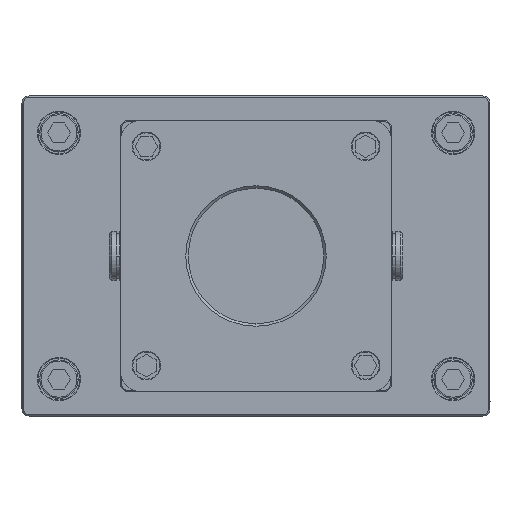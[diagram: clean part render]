
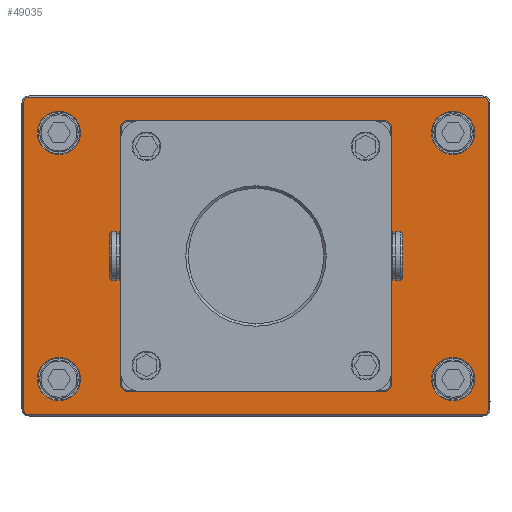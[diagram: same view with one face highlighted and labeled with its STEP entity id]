
A CAD part, front view. The second image highlights one B-rep face of the part: STEP entity #49035.
In plain terms, the highlighted planar face has unit normal (0, -1, 0) as drawn and (0, 1, 0) by its records, which use the part's own axes.
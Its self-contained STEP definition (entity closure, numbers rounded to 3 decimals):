
#47487=CARTESIAN_POINT('',(0.,9.,0.));
#47488=DIRECTION('',(0.,-1.,0.));
#47489=DIRECTION('',(1.,0.,0.));
#47490=AXIS2_PLACEMENT_3D('',#47487,#47488,#47489);
#47492=CARTESIAN_POINT('',(0.,9.,0.));
#47493=DIRECTION('',(0.,-1.,0.));
#47494=DIRECTION('',(-1.,0.,0.));
#47495=AXIS2_PLACEMENT_3D('',#47492,#47493,#47494);
#47497=CARTESIAN_POINT('',(-92.,9.,-62.));
#47498=DIRECTION('',(0.,1.,0.));
#47499=DIRECTION('',(0.,0.,-1.));
#47500=AXIS2_PLACEMENT_3D('',#47497,#47498,#47499);
#47502=DIRECTION('',(-1.,0.,0.));
#47503=VECTOR('',#47502,184.);
#47504=CARTESIAN_POINT('',(92.,9.,
-64.5));
#47505=LINE('',#47504,#47503);
#47506=CARTESIAN_POINT('',(92.,9.,-62.));
#47507=DIRECTION('',(0.,1.,0.));
#47508=DIRECTION('',(1.,0.,0.));
#47509=AXIS2_PLACEMENT_3D('',#47506,#47507,#47508);
#47511=DIRECTION('',(0.,0.,-1.));
#47512=VECTOR('',#47511,124.);
#47513=CARTESIAN_POINT('',(94.5,9.,62.));
#47514=LINE('',#47513,#47512);
#47515=CARTESIAN_POINT('',(92.,9.,62.));
#47516=DIRECTION('',(0.,1.,0.));
#47517=DIRECTION('',(0.,0.,1.));
#47518=AXIS2_PLACEMENT_3D('',#47515,#47516,#47517);
#47520=DIRECTION('',(1.,0.,0.));
#47521=VECTOR('',#47520,184.);
#47522=CARTESIAN_POINT('',(-92.,9.,
64.5));
#47523=LINE('',#47522,#47521);
#47524=CARTESIAN_POINT('',(-92.,9.,62.));
#47525=DIRECTION('',(0.,1.,0.));
#47526=DIRECTION('',(-1.,0.,0.));
#47527=AXIS2_PLACEMENT_3D('',#47524,#47525,#47526);
#47529=DIRECTION('',(0.,0.,1.));
#47530=VECTOR('',#47529,124.);
#47531=CARTESIAN_POINT('',(-94.5,9.,
-62.));
#47532=LINE('',#47531,#47530);
#47533=CARTESIAN_POINT('',(80.,9.,50.));
#47534=DIRECTION('',(0.,-1.,0.));
#47535=DIRECTION('',(1.,0.,0.));
#47536=AXIS2_PLACEMENT_3D('',#47533,#47534,#47535);
#47538=CARTESIAN_POINT('',(80.,9.,50.));
#47539=DIRECTION('',(0.,-1.,0.));
#47540=DIRECTION('',(-1.,0.,0.));
#47541=AXIS2_PLACEMENT_3D('',#47538,#47539,#47540);
#47543=CARTESIAN_POINT('',(-80.,9.,50.));
#47544=DIRECTION('',(0.,-1.,0.));
#47545=DIRECTION('',(1.,0.,0.));
#47546=AXIS2_PLACEMENT_3D('',#47543,#47544,#47545);
#47548=CARTESIAN_POINT('',(-80.,9.,50.));
#47549=DIRECTION('',(0.,-1.,0.));
#47550=DIRECTION('',(-1.,0.,0.));
#47551=AXIS2_PLACEMENT_3D('',#47548,#47549,#47550);
#47553=CARTESIAN_POINT('',(80.,9.,-50.));
#47554=DIRECTION('',(0.,-1.,0.));
#47555=DIRECTION('',(1.,0.,0.));
#47556=AXIS2_PLACEMENT_3D('',#47553,#47554,#47555);
#47558=CARTESIAN_POINT('',(80.,9.,-50.));
#47559=DIRECTION('',(0.,-1.,0.));
#47560=DIRECTION('',(-1.,0.,0.));
#47561=AXIS2_PLACEMENT_3D('',#47558,#47559,#47560);
#47563=CARTESIAN_POINT('',(-80.,9.,-50.));
#47564=DIRECTION('',(0.,-1.,0.));
#47565=DIRECTION('',(1.,0.,0.));
#47566=AXIS2_PLACEMENT_3D('',#47563,#47564,#47565);
#47568=CARTESIAN_POINT('',(-80.,9.,-50.));
#47569=DIRECTION('',(0.,-1.,0.));
#47570=DIRECTION('',(-1.,0.,0.));
#47571=AXIS2_PLACEMENT_3D('',#47568,#47569,#47570);
#47573=CARTESIAN_POINT('',(-44.5,9.,-44.5));
#47574=DIRECTION('',(0.,1.,0.));
#47575=DIRECTION('',(1.,0.,0.));
#47576=AXIS2_PLACEMENT_3D('',#47573,#47574,#47575);
#47578=CARTESIAN_POINT('',(-44.5,9.,-44.5));
#47579=DIRECTION('',(0.,1.,0.));
#47580=DIRECTION('',(-1.,0.,0.));
#47581=AXIS2_PLACEMENT_3D('',#47578,#47579,#47580);
#47583=CARTESIAN_POINT('',(-44.5,9.,44.5));
#47584=DIRECTION('',(0.,1.,0.));
#47585=DIRECTION('',(0.,0.,-1.));
#47586=AXIS2_PLACEMENT_3D('',#47583,#47584,#47585);
#47588=CARTESIAN_POINT('',(-44.5,9.,44.5));
#47589=DIRECTION('',(0.,1.,0.));
#47590=DIRECTION('',(0.,0.,1.));
#47591=AXIS2_PLACEMENT_3D('',#47588,#47589,#47590);
#47593=CARTESIAN_POINT('',(44.5,9.,44.5));
#47594=DIRECTION('',(0.,1.,0.));
#47595=DIRECTION('',(-1.,0.,0.));
#47596=AXIS2_PLACEMENT_3D('',#47593,#47594,#47595);
#47598=CARTESIAN_POINT('',(44.5,9.,44.5));
#47599=DIRECTION('',(0.,1.,0.));
#47600=DIRECTION('',(1.,0.,0.));
#47601=AXIS2_PLACEMENT_3D('',#47598,#47599,#47600);
#47603=CARTESIAN_POINT('',(44.5,9.,-44.5));
#47604=DIRECTION('',(0.,1.,0.));
#47605=DIRECTION('',(0.,0.,1.));
#47606=AXIS2_PLACEMENT_3D('',#47603,#47604,#47605);
#47608=CARTESIAN_POINT('',(44.5,9.,-44.5));
#47609=DIRECTION('',(0.,1.,0.));
#47610=DIRECTION('',(0.,0.,-1.));
#47611=AXIS2_PLACEMENT_3D('',#47608,#47609,#47610);
#48519=CARTESIAN_POINT('',(38.,9.,0.));
#48520=CARTESIAN_POINT('',(-38.,9.,0.));
#48521=VERTEX_POINT('',#48519);
#48522=VERTEX_POINT('',#48520);
#48567=CARTESIAN_POINT('',(-92.,9.,-64.5));
#48568=CARTESIAN_POINT('',(-94.5,9.,-62.));
#48569=VERTEX_POINT('',#48567);
#48570=VERTEX_POINT('',#48568);
#48575=CARTESIAN_POINT('',(-94.5,9.,
62.));
#48576=VERTEX_POINT('',#48575);
#48579=CARTESIAN_POINT('',(-92.,9.,64.5));
#48580=VERTEX_POINT('',#48579);
#48583=CARTESIAN_POINT('',(92.,9.,64.5));
#48584=VERTEX_POINT('',#48583);
#48587=CARTESIAN_POINT('',(94.5,9.,62.));
#48588=VERTEX_POINT('',#48587);
#48591=CARTESIAN_POINT('',(94.5,9.,
-62.));
#48592=VERTEX_POINT('',#48591);
#48595=CARTESIAN_POINT('',(92.,9.,-64.5));
#48596=VERTEX_POINT('',#48595);
#48615=CARTESIAN_POINT('',(88.8,9.,50.));
#48616=CARTESIAN_POINT('',(71.2,9.,50.));
#48617=VERTEX_POINT('',#48615);
#48618=VERTEX_POINT('',#48616);
#48639=CARTESIAN_POINT('',(-71.2,9.,50.));
#48640=CARTESIAN_POINT('',(-88.8,9.,50.));
#48641=VERTEX_POINT('',#48639);
#48642=VERTEX_POINT('',#48640);
#48655=CARTESIAN_POINT('',(88.8,9.,-50.));
#48656=CARTESIAN_POINT('',(71.2,9.,-50.));
#48657=VERTEX_POINT('',#48655);
#48658=VERTEX_POINT('',#48656);
#48663=CARTESIAN_POINT('',(-71.2,9.,-50.));
#48664=CARTESIAN_POINT('',(-88.8,9.,-50.));
#48665=VERTEX_POINT('',#48663);
#48666=VERTEX_POINT('',#48664);
#48763=CARTESIAN_POINT('',(-39.5,9.,-44.5));
#48764=CARTESIAN_POINT('',(-49.5,9.,-44.5));
#48765=VERTEX_POINT('',#48763);
#48766=VERTEX_POINT('',#48764);
#48771=CARTESIAN_POINT('',(-44.5,9.,39.5));
#48772=CARTESIAN_POINT('',(-44.5,9.,49.5));
#48773=VERTEX_POINT('',#48771);
#48774=VERTEX_POINT('',#48772);
#48779=CARTESIAN_POINT('',(39.5,9.,44.5));
#48780=CARTESIAN_POINT('',(49.5,9.,44.5));
#48781=VERTEX_POINT('',#48779);
#48782=VERTEX_POINT('',#48780);
#48787=CARTESIAN_POINT('',(44.5,9.,-39.5));
#48788=CARTESIAN_POINT('',(44.5,9.,-49.5));
#48789=VERTEX_POINT('',#48787);
#48790=VERTEX_POINT('',#48788);
#48959=CARTESIAN_POINT('',(0.,9.,0.));
#48960=DIRECTION('',(0.,1.,0.));
#48961=DIRECTION('',(1.,0.,0.));
#48962=AXIS2_PLACEMENT_3D('',#48959,#48960,#48961);
#48963=PLANE('',#48962);
#48965=ORIENTED_EDGE('',*,*,#48964,.F.);
#48967=ORIENTED_EDGE('',*,*,#48966,.F.);
#48969=ORIENTED_EDGE('',*,*,#48968,.F.);
#48971=ORIENTED_EDGE('',*,*,#48970,.F.);
#48973=ORIENTED_EDGE('',*,*,#48972,.F.);
#48975=ORIENTED_EDGE('',*,*,#48974,.F.);
#48977=ORIENTED_EDGE('',*,*,#48976,.F.);
#48979=ORIENTED_EDGE('',*,*,#48978,.F.);
#48980=EDGE_LOOP('',(#48965,#48967,#48969,#48971,#48973,#48975,#48977,#48979));
#48981=FACE_OUTER_BOUND('',#48980,.F.);
#48983=ORIENTED_EDGE('',*,*,#48982,.F.);
#48984=ORIENTED_EDGE('',*,*,#48949,.F.);
#48985=EDGE_LOOP('',(#48983,#48984));
#48986=FACE_BOUND('',#48985,.F.);
#48988=ORIENTED_EDGE('',*,*,#48987,.F.);
#48990=ORIENTED_EDGE('',*,*,#48989,.F.);
#48991=EDGE_LOOP('',(#48988,#48990));
#48992=FACE_BOUND('',#48991,.F.);
#48994=ORIENTED_EDGE('',*,*,#48993,.F.);
#48996=ORIENTED_EDGE('',*,*,#48995,.F.);
#48997=EDGE_LOOP('',(#48994,#48996));
#48998=FACE_BOUND('',#48997,.F.);
#49000=ORIENTED_EDGE('',*,*,#48999,.F.);
#49002=ORIENTED_EDGE('',*,*,#49001,.F.);
#49003=EDGE_LOOP('',(#49000,#49002));
#49004=FACE_BOUND('',#49003,.F.);
#49006=ORIENTED_EDGE('',*,*,#49005,.F.);
#49008=ORIENTED_EDGE('',*,*,#49007,.F.);
#49009=EDGE_LOOP('',(#49006,#49008));
#49010=FACE_BOUND('',#49009,.F.);
#49012=ORIENTED_EDGE('',*,*,#49011,.T.);
#49014=ORIENTED_EDGE('',*,*,#49013,.T.);
#49015=EDGE_LOOP('',(#49012,#49014));
#49016=FACE_BOUND('',#49015,.F.);
#49018=ORIENTED_EDGE('',*,*,#49017,.T.);
#49020=ORIENTED_EDGE('',*,*,#49019,.T.);
#49021=EDGE_LOOP('',(#49018,#49020));
#49022=FACE_BOUND('',#49021,.F.);
#49024=ORIENTED_EDGE('',*,*,#49023,.T.);
#49026=ORIENTED_EDGE('',*,*,#49025,.T.);
#49027=EDGE_LOOP('',(#49024,#49026));
#49028=FACE_BOUND('',#49027,.F.);
#49030=ORIENTED_EDGE('',*,*,#49029,.T.);
#49032=ORIENTED_EDGE('',*,*,#49031,.T.);
#49033=EDGE_LOOP('',(#49030,#49032));
#49034=FACE_BOUND('',#49033,.F.);
#49035=ADVANCED_FACE('',(#48981,#48986,#48992,#48998,#49004,#49010,#49016,
#49022,#49028,#49034),#48963,.T.);
#47491=CIRCLE('',#47490,38.);
#47496=CIRCLE('',#47495,38.);
#47501=CIRCLE('',#47500,2.5);
#47510=CIRCLE('',#47509,2.5);
#47519=CIRCLE('',#47518,2.5);
#47528=CIRCLE('',#47527,2.5);
#47537=CIRCLE('',#47536,8.8);
#47542=CIRCLE('',#47541,8.8);
#47547=CIRCLE('',#47546,8.8);
#47552=CIRCLE('',#47551,8.8);
#47557=CIRCLE('',#47556,8.8);
#47562=CIRCLE('',#47561,8.8);
#47567=CIRCLE('',#47566,8.8);
#47572=CIRCLE('',#47571,8.8);
#47577=CIRCLE('',#47576,5.);
#47582=CIRCLE('',#47581,5.);
#47587=CIRCLE('',#47586,5.);
#47592=CIRCLE('',#47591,5.);
#47597=CIRCLE('',#47596,5.);
#47602=CIRCLE('',#47601,5.);
#47607=CIRCLE('',#47606,5.);
#47612=CIRCLE('',#47611,5.);
#48949=EDGE_CURVE('',#48522,#48521,#47496,.T.);
#48964=EDGE_CURVE('',#48569,#48570,#47501,.T.);
#48966=EDGE_CURVE('',#48596,#48569,#47505,.T.);
#48968=EDGE_CURVE('',#48592,#48596,#47510,.T.);
#48970=EDGE_CURVE('',#48588,#48592,#47514,.T.);
#48972=EDGE_CURVE('',#48584,#48588,#47519,.T.);
#48974=EDGE_CURVE('',#48580,#48584,#47523,.T.);
#48976=EDGE_CURVE('',#48576,#48580,#47528,.T.);
#48978=EDGE_CURVE('',#48570,#48576,#47532,.T.);
#48982=EDGE_CURVE('',#48521,#48522,#47491,.T.);
#48987=EDGE_CURVE('',#48617,#48618,#47537,.T.);
#48989=EDGE_CURVE('',#48618,#48617,#47542,.T.);
#48993=EDGE_CURVE('',#48641,#48642,#47547,.T.);
#48995=EDGE_CURVE('',#48642,#48641,#47552,.T.);
#48999=EDGE_CURVE('',#48657,#48658,#47557,.T.);
#49001=EDGE_CURVE('',#48658,#48657,#47562,.T.);
#49005=EDGE_CURVE('',#48665,#48666,#47567,.T.);
#49007=EDGE_CURVE('',#48666,#48665,#47572,.T.);
#49011=EDGE_CURVE('',#48765,#48766,#47577,.T.);
#49013=EDGE_CURVE('',#48766,#48765,#47582,.T.);
#49017=EDGE_CURVE('',#48773,#48774,#47587,.T.);
#49019=EDGE_CURVE('',#48774,#48773,#47592,.T.);
#49023=EDGE_CURVE('',#48781,#48782,#47597,.T.);
#49025=EDGE_CURVE('',#48782,#48781,#47602,.T.);
#49029=EDGE_CURVE('',#48789,#48790,#47607,.T.);
#49031=EDGE_CURVE('',#48790,#48789,#47612,.T.);
